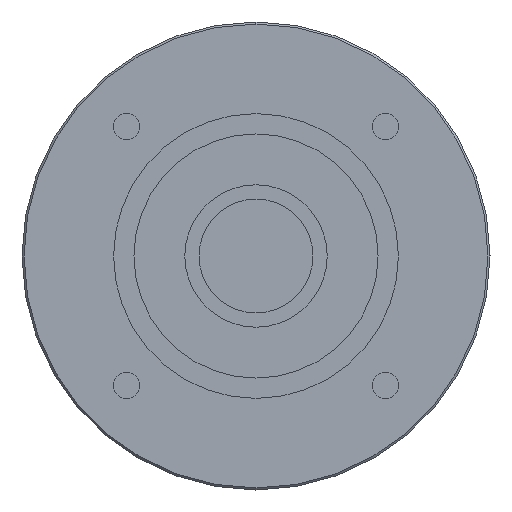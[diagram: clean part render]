
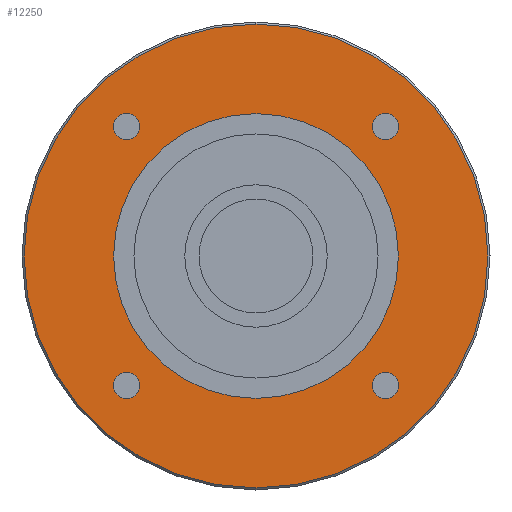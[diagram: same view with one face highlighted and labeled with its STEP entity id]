
A CAD part, left-side view. The second image highlights one B-rep face of the part: STEP entity #12250.
In plain terms, the highlighted planar face has unit normal (-1, 0, 0) as drawn and (0, 0, -1) by its records, which use the part's own axes.
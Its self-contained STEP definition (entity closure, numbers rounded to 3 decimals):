
#11080=CARTESIAN_POINT('',(0.,57.,-66.4));
#11090=VERTEX_POINT('',#11080);
#11120=CARTESIAN_POINT('',(0.,0.,
-66.4));
#11130=DIRECTION('',(0.,0.,-1.));
#11140=DIRECTION('',(1.,0.,0.));
#11150=AXIS2_PLACEMENT_3D('',#11120,#11130,#11140);
#11160=CIRCLE('',#11150,57.);
#11170=CARTESIAN_POINT('',(57.,0.,-66.4));
#11180=VERTEX_POINT('',#11170);
#11190=EDGE_CURVE('',#11090,#11180,#11160,.T.);
#11210=CARTESIAN_POINT('',(0.,-57.,-66.4));
#11220=VERTEX_POINT('',#11210);
#11230=EDGE_CURVE('',#11180,#11220,#11160,.T.);
#11390=CARTESIAN_POINT('',(0.,0.,
-66.4));
#11400=DIRECTION('',(0.,0.,-1.));
#11410=DIRECTION('',(1.,0.,0.));
#11420=AXIS2_PLACEMENT_3D('',#11390,#11400,#11410);
#11430=PLANE('',#11420);
#11440=CARTESIAN_POINT('',(-31.82,-31.82,-66.4));
#11450=DIRECTION('',(0.,0.,-1.));
#11460=DIRECTION('',(1.,0.,0.));
#11470=AXIS2_PLACEMENT_3D('',#11440,#11450,#11460);
#11480=CIRCLE('',#11470,3.25);
#11490=CARTESIAN_POINT('',(-28.57,-31.82,-66.4));
#11500=VERTEX_POINT('',#11490);
#11510=CARTESIAN_POINT('',(-35.07,-31.82,-66.4));
#11520=VERTEX_POINT('',#11510);
#11530=EDGE_CURVE('',#11500,#11520,#11480,.T.);
#11540=ORIENTED_EDGE('',*,*,#11530,.F.);
#11550=EDGE_CURVE('',#11520,#11500,#11480,.T.);
#11560=ORIENTED_EDGE('',*,*,#11550,.F.);
#11570=EDGE_LOOP('',(#11560,#11540));
#11580=FACE_BOUND('',#11570,.T.);
#11590=CARTESIAN_POINT('',(-31.82,31.82,-66.4));
#11600=DIRECTION('',(0.,0.,-1.));
#11610=DIRECTION('',(1.,0.,0.));
#11620=AXIS2_PLACEMENT_3D('',#11590,#11600,#11610);
#11630=CIRCLE('',#11620,3.25);
#11640=CARTESIAN_POINT('',(-28.57,31.82,-66.4));
#11650=VERTEX_POINT('',#11640);
#11660=CARTESIAN_POINT('',(-35.07,31.82,-66.4));
#11670=VERTEX_POINT('',#11660);
#11680=EDGE_CURVE('',#11650,#11670,#11630,.T.);
#11690=ORIENTED_EDGE('',*,*,#11680,.F.);
#11700=EDGE_CURVE('',#11670,#11650,#11630,.T.);
#11710=ORIENTED_EDGE('',*,*,#11700,.F.);
#11720=EDGE_LOOP('',(#11710,#11690));
#11730=FACE_BOUND('',#11720,.T.);
#11740=CARTESIAN_POINT('',(31.82,31.82,-66.4));
#11750=DIRECTION('',(0.,0.,-1.));
#11760=DIRECTION('',(1.,0.,0.));
#11770=AXIS2_PLACEMENT_3D('',#11740,#11750,#11760);
#11780=CIRCLE('',#11770,3.25);
#11790=CARTESIAN_POINT('',(35.07,31.82,-66.4));
#11800=VERTEX_POINT('',#11790);
#11810=CARTESIAN_POINT('',(28.57,31.82,-66.4));
#11820=VERTEX_POINT('',#11810);
#11830=EDGE_CURVE('',#11800,#11820,#11780,.T.);
#11840=ORIENTED_EDGE('',*,*,#11830,.F.);
#11850=EDGE_CURVE('',#11820,#11800,#11780,.T.);
#11860=ORIENTED_EDGE('',*,*,#11850,.F.);
#11870=EDGE_LOOP('',(#11860,#11840));
#11880=FACE_BOUND('',#11870,.T.);
#11890=CARTESIAN_POINT('',(31.82,-31.82,-66.4));
#11900=DIRECTION('',(0.,0.,-1.));
#11910=DIRECTION('',(1.,0.,0.));
#11920=AXIS2_PLACEMENT_3D('',#11890,#11900,#11910);
#11930=CIRCLE('',#11920,3.25);
#11940=CARTESIAN_POINT('',(35.07,-31.82,-66.4));
#11950=VERTEX_POINT('',#11940);
#11960=CARTESIAN_POINT('',(28.57,-31.82,-66.4));
#11970=VERTEX_POINT('',#11960);
#11980=EDGE_CURVE('',#11950,#11970,#11930,.T.);
#11990=ORIENTED_EDGE('',*,*,#11980,.F.);
#12000=EDGE_CURVE('',#11970,#11950,#11930,.T.);
#12010=ORIENTED_EDGE('',*,*,#12000,.F.);
#12020=EDGE_LOOP('',(#12010,#11990));
#12030=FACE_BOUND('',#12020,.T.);
#12040=EDGE_CURVE('',#11220,#11090,#11160,.T.);
#12050=ORIENTED_EDGE('',*,*,#12040,.T.);
#12060=ORIENTED_EDGE('',*,*,#11230,.T.);
#12070=ORIENTED_EDGE('',*,*,#11190,.T.);
#12080=EDGE_LOOP('',(#12070,#12060,#12050));
#12090=FACE_OUTER_BOUND('',#12080,.T.);
#12100=CARTESIAN_POINT('',(0.,0.,
-66.4));
#12110=DIRECTION('',(0.,0.,1.));
#12120=DIRECTION('',(1.,0.,0.));
#12130=AXIS2_PLACEMENT_3D('',#12100,#12110,#12120);
#12140=CIRCLE('',#12130,35.);
#12150=CARTESIAN_POINT('',(35.,0.,-66.4));
#12160=VERTEX_POINT('',#12150);
#12170=CARTESIAN_POINT('',(-35.,0.,-66.4));
#12180=VERTEX_POINT('',#12170);
#12190=EDGE_CURVE('',#12160,#12180,#12140,.T.);
#12200=ORIENTED_EDGE('',*,*,#12190,.T.);
#12210=EDGE_CURVE('',#12180,#12160,#12140,.T.);
#12220=ORIENTED_EDGE('',*,*,#12210,.T.);
#12230=EDGE_LOOP('',(#12220,#12200));
#12240=FACE_BOUND('',#12230,.T.);
#12250=ADVANCED_FACE('',(#11580,#11730,#11880,#12030,#12090,#12240),
#11430,.T.);
